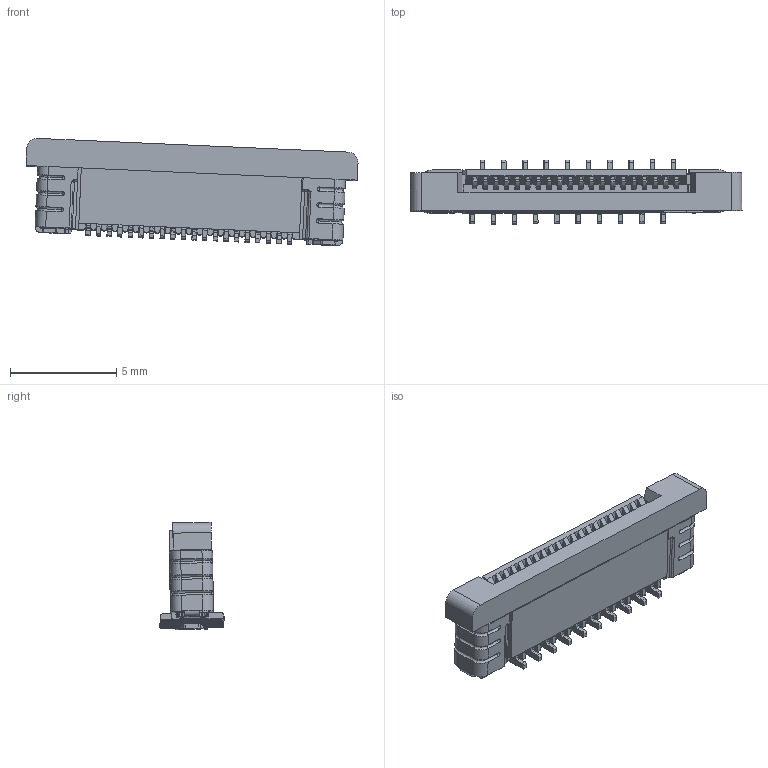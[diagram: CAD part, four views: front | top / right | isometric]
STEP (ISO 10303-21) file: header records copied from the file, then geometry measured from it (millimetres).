
FILE_DESCRIPTION (( 'STEP AP214' ), '1' );
FILE_NAME ('2345-C20TD3AT-S.STEP', '2018-08-23T07:32:24', ( 'ADMIN' ), ( '' ), 'SwSTEP 2.0', 'SolidWorks 2011', '' );
FILE_SCHEMA (( 'AUTOMOTIVE_DESIGN' ));
Length unit declared in the file: millimetre
Products named in the file (4): Assembly-1; 36pin衵諉; HS20; 2345-C20TD3AT-S
Assembly tree (3 placements, depth 4):
  2345-C20TD3AT-S
    Assembly-1
      36pin衵諉
        HS20
Bounding box: 15.62 x 3.02 x 5.04 mm (x, y, z)
Volume: 103 mm3; surface area: 461.7 mm2
Topology: 22 solids, 22 shells, 1713 faces, 4728 edges, 3065 vertices
Faces by surface type: plane 1106, cylinder 566, torus 20, sphere 16, bspline 5
Entity records: 61319 total; most frequent: CARTESIAN_POINT 11317, ORIENTED_EDGE 9412, DIRECTION 8815, EDGE_CURVE 4706, LINE 3349, VECTOR 3349, VERTEX_POINT 3059, AXIS2_PLACEMENT_3D 2733
